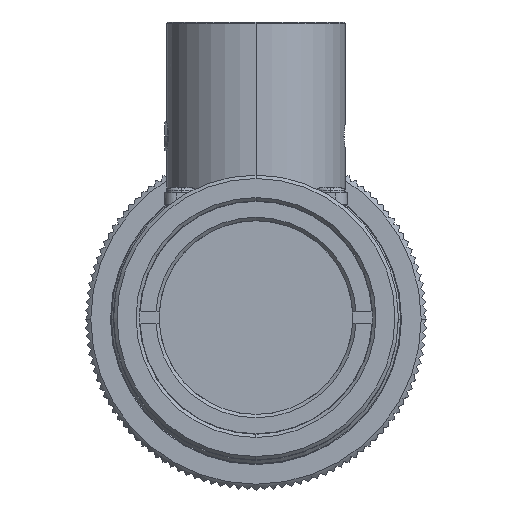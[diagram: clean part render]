
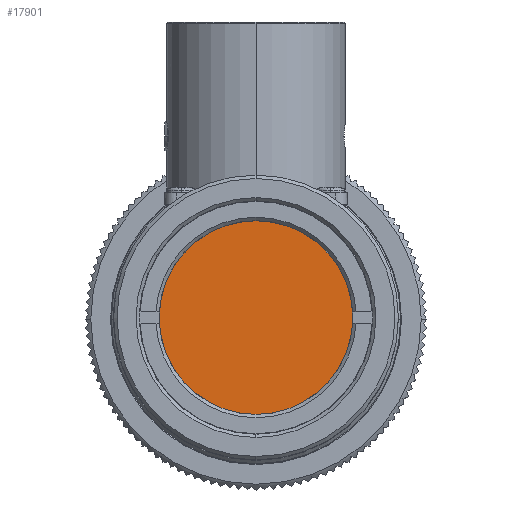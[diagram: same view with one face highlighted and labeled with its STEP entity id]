
A CAD part, top view. The second image highlights one B-rep face of the part: STEP entity #17901.
In plain terms, the highlighted planar face has unit normal (0, 0, 1).
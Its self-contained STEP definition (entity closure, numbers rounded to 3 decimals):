
#9283 = PLANE ( 'NONE',  #9292 ) ;
#9289 = DIRECTION ( 'NONE',  ( 0., 0., -1. ) ) ;
#9290 = CARTESIAN_POINT ( 'NONE',  ( 0., 10.967, 45.262 ) ) ;
#9292 = AXIS2_PLACEMENT_3D ( 'NONE', #9290, #9289, #9328 ) ;
#9293 = FACE_OUTER_BOUND ( 'NONE', #17896, .T. ) ;
#9328 = DIRECTION ( 'NONE',  ( -1., 0., 0. ) ) ;
#13911 = CARTESIAN_POINT ( 'NONE',  ( 8.8, 0., 45.262 ) ) ;
#14015 = AXIS2_PLACEMENT_3D ( 'NONE', #14068, #14057, #14056 ) ;
#14017 = CIRCLE ( 'NONE', #14015, 8.8 ) ;
#14056 = DIRECTION ( 'NONE',  ( 1., 0., 0. ) ) ;
#14057 = DIRECTION ( 'NONE',  ( 0., 0., 1. ) ) ;
#14060 = CARTESIAN_POINT ( 'NONE',  ( -8.8, 0., 45.262 ) ) ;
#14068 = CARTESIAN_POINT ( 'NONE',  ( 0., 0., 45.262 ) ) ;
#14314 = DIRECTION ( 'NONE',  ( 0., 0., 1. ) ) ;
#14360 = DIRECTION ( 'NONE',  ( 1., 0., 0. ) ) ;
#14361 = AXIS2_PLACEMENT_3D ( 'NONE', #14369, #14314, #14360 ) ;
#14369 = CARTESIAN_POINT ( 'NONE',  ( 0., 0., 45.262 ) ) ;
#14371 = CIRCLE ( 'NONE', #14361, 8.8 ) ;
#17896 = EDGE_LOOP ( 'NONE', ( #17904, #17906 ) ) ;
#17901 = ADVANCED_FACE ( 'NONE', ( #9293 ), #9283, .F. ) ;
#17904 = ORIENTED_EDGE ( 'NONE', *, *, #24547, .T. ) ;
#17906 = ORIENTED_EDGE ( 'NONE', *, *, #24732, .T. ) ;
#24487 = VERTEX_POINT ( 'NONE', #13911 ) ;
#24547 = EDGE_CURVE ( 'NONE', #24548, #24487, #14017, .T. ) ;
#24548 = VERTEX_POINT ( 'NONE', #14060 ) ;
#24732 = EDGE_CURVE ( 'NONE', #24487, #24548, #14371, .T. ) ;
